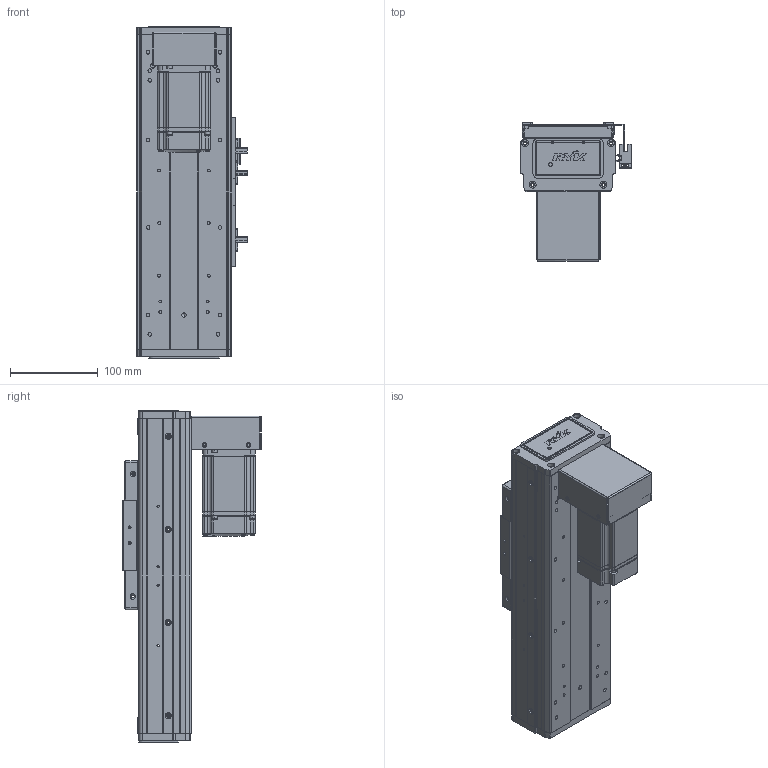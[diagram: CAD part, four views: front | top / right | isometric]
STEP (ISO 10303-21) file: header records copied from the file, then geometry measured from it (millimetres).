
FILE_DESCRIPTION (( 'STEP AP203' ), '1' );
FILE_NAME ('RY100FS-L1620-300-BK(15双轨).SLDASM_100.step', '2021-03-02T07:33:19', ( '盈信电脑' ), ( '东莞市道滘镇水果街19号' ), 'SwSTEP 2.0', 'SolidWorks 2012', '' );
FILE_SCHEMA (( 'CONFIG_CONTROL_DESIGN' ));
Length unit declared in the file: millimetre
Products named in the file (21): RY100FS-L1620-300-BK(15邧寢).SLDASM_100; 滅袉蝶18-15; 1; RY100FS-15双轨下折钢带安装板; RY100FS-15邧寢狟殏萇儂啣; RY100FS-双轨螺母座(16丝杆）; 蚥薯蝶紫輸; RY100FS-15邧寢狟殏萇儂欶; 覜茼ん672; RY80俋离覜茼え; 672嫖萇羲壽假蚾釱; RY100F-詩湍揤踡輸; RY100F-綴裔啣; RY100F-詩湍幗謫粣; 棠沺沭; RY100F-詩湍揤踡謫; RY100FS-300-BK15邧寢祥凄詩湍_100; RY100FS-双轨铝滑块(上板）; RY100FS-300-BK15絳寢倰第奻裔啣_100; RY100F-滅鳥裔啣; RY100FS-300-BK15絳寢倰第菁釱_100
Assembly tree (30 placements, depth 2):
  RY100FS-L1620-300-BK(15邧寢).SLDASM_100
    RY100FS-300-BK15絳寢倰第菁釱_100
    RY100FS-300-BK15絳寢倰第奻裔啣_100  x2
    RY100FS-300-BK15邧寢祥凄詩湍_100
    RY100FS-双轨铝滑块(上板）
    RY100F-滅鳥裔啣
    棠沺沭  x2
    RY100F-詩湍幗謫粣
    RY100F-詩湍揤踡謫  x2
    RY100F-綴裔啣  x2
    672嫖萇羲壽假蚾釱  x2
    RY80俋离覜茼え  x2
    覜茼ん672  x3
    RY100F-詩湍揤踡輸  x2
    RY100FS-双轨螺母座(16丝杆）
    RY100FS-15邧寢狟殏萇儂啣
    RY100FS-15邧寢狟殏萇儂欶
    蚥薯蝶紫輸
    RY100FS-15双轨下折钢带安装板
    滅袉蝶18-15  x2
    1
Bounding box: 126.2 x 158.5 x 379 mm (x, y, z)
Volume: 1432205.8 mm3; surface area: 551292.2 mm2
Topology: 30 solids, 30 shells, 2154 faces, 5817 edges, 3780 vertices
Faces by surface type: plane 1080, cylinder 906, cone 132, bspline 36
Entity records: 56808 total; most frequent: CARTESIAN_POINT 11349, DIRECTION 9042, ORIENTED_EDGE 8874, EDGE_CURVE 4437, AXIS2_PLACEMENT_3D 3157, VERTEX_POINT 2918, VECTOR 2728, LINE 2728
